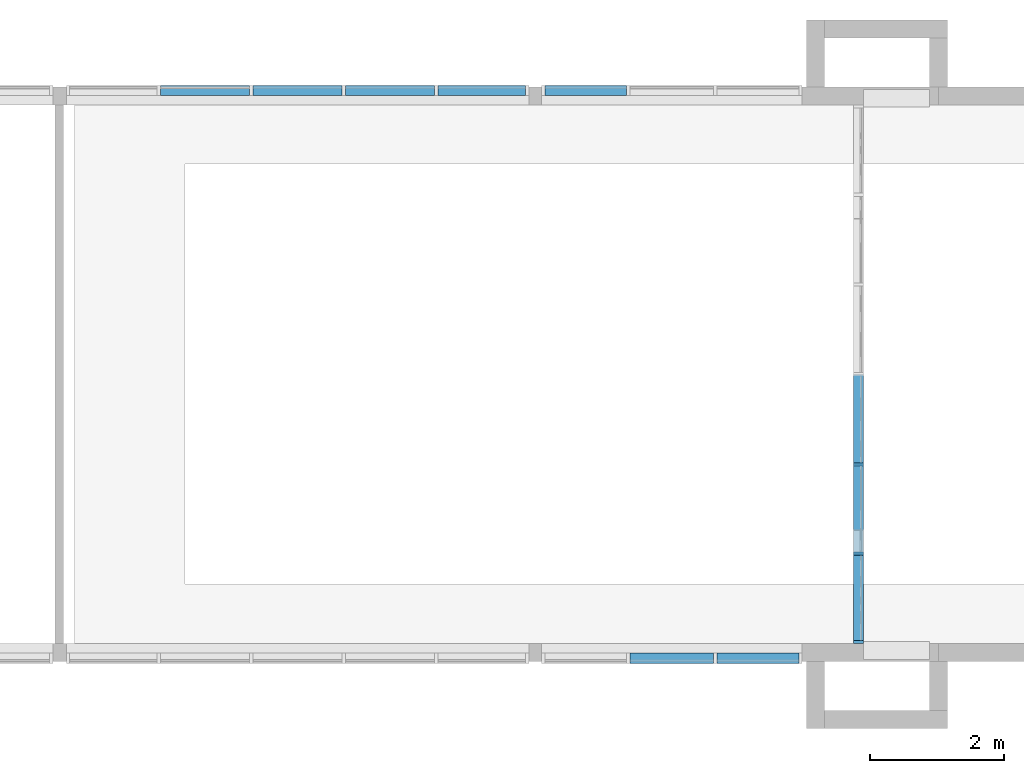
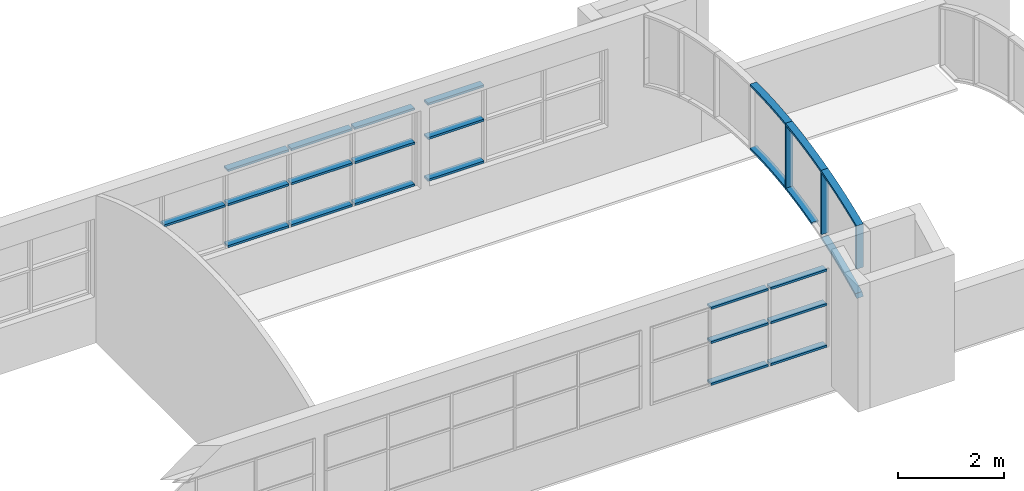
# One storey, part 3 of 14: 28 members, 4 elements without a shape of their own.
"""IFC2X3 building model written with IfcOpenShell, lengths in metres."""

from ifc_helpers import new_model, entity, si_unit, converted_unit, frame, frame_2d, origin, origin_2d_with_axis, place, context, project, spatial, polyline, circle_curve, parameter, trimmed, segment, composite_curve, rectangle, outline, extrude, source, transform, mapped, material, type_object, type_shapes, element, aggregate, save


model = new_model("IFC2X3")

# Units and contexts
model_context = context("Model", 3, precision=1e-09, world=origin())
plan_context = context("Plan", 3, precision=1e-09, world=origin())
ifc_project = project(units=[si_unit("LENGTHUNIT", "METRE"), si_unit("AREAUNIT", "SQUARE_METRE"), si_unit("VOLUMEUNIT", "CUBIC_METRE"), converted_unit("PLANEANGLEUNIT", "DEGREE", entity("IfcRatioMeasure", 0.01745329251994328), si_unit("PLANEANGLEUNIT", "RADIAN"), dimensions=[0, 0, 0, 0, 0, 0, 0]), si_unit("TIMEUNIT", "SECOND")], contexts=[model_context, plan_context])

# Site, building, storey
site_placement = place(None, origin())
site = spatial("IfcSite", under=ifc_project, at=site_placement, Name="Default", CompositionType="ELEMENT")
building_placement = place(site_placement, origin())
building = spatial("IfcBuilding", under=site, at=building_placement, CompositionType="ELEMENT")
storey_placement = place(building_placement, frame((0.0, 0.0, 9.25000000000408)))
storey = spatial("IfcBuildingStorey", under=building, at=storey_placement, Name="Roof - Main", CompositionType="ELEMENT", Elevation=9.25000000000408)

# Curtain wall, members
curtain_wall_1_placement = place(storey_placement, origin())
curtain_wall_1 = element("IfcCurtainWall", 1, at=curtain_wall_1_placement, inside=storey, Name="Curtain Wall:Storefront", ObjectType="Curtain Wall:Storefront")
ifc_material = material(Name="Metal - Aluminium")
member_type_1 = type_object("IfcMemberType", Name="50 x 150mm", PredefinedType="MULLION")
shared_shape_1 = source(origin(), model_context, "Body", "SweptSolid", [
    extrude(outline(composite_curve([segment(polyline([(-0.7161302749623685, -0.02478416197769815), (0.7090670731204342, -0.02478416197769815)]), True, "CONTINUOUS"), segment(trimmed(circle_curve(frame_2d((-9.329784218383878, 1.340798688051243), x_axis=(0.9646981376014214, -0.2633581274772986)), 10.13130553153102), [parameter(7.523028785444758)], [parameter(7.703250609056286)], True, "PARAMETER"), True, "CONTINUOUS"), segment(polyline([(0.7133127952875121, 0.006799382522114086), (0.7145315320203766, 0.01600705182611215)]), True, "CONTINUOUS"), segment(polyline([(0.7145315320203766, 0.01600705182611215), (0.7157418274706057, 0.02521583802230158)]), True, "CONTINUOUS"), segment(polyline([(0.7157418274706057, 0.02521583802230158), (-0.7083481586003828, 0.02521583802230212)]), True, "CONTINUOUS"), segment(trimmed(circle_curve(frame_2d((-9.325467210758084, 1.340798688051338), x_axis=(1.0, 1.890626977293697e-05)), 8.716966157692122), [parameter(351.1008360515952)], [parameter(351.3185492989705)], True, "PARAMETER"), False, "CONTINUOUS"), segment(polyline([(-0.7134093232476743, -0.007518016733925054), (-0.7147654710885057, -0.0161517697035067)]), True, "CONTINUOUS"), segment(polyline([(-0.7147654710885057, -0.0161517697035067), (-0.7161302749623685, -0.02478416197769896)]), True, "CONTINUOUS")], self_intersect=False)), frame((0.0002158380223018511, -0.07499999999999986, -0.7628075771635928), z_axis=(0.0, 1.0, 0.0), x_axis=(0.0, 0.0, -1.0)), (0.0, 0.0, 1.0), 0.15),
])
type_shapes(member_type_1, [shared_shape_1])
member_1_placement = place(storey_placement, frame((-21.61957995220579, 30.35450328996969, 2.610619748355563), z_axis=(0.0, 0.0, -1.0), x_axis=(0.0, -1.0, 0.0)))
member_1 = element("IfcMember", 2, at=member_1_placement, type_object=member_type_1, material=ifc_material, Name="Rectangular Mullion:50 x 150mm:50 x 150mm", ObjectType="50 x 150mm", context=model_context, shape_type="MappedRepresentation", body=[
    mapped(shared_shape_1, transform((0.0, 0.0, 0.0), scale=1.0)),
])
member_type_2 = type_object("IfcMemberType", Name="50 x 150mm", PredefinedType="MULLION")
shared_shape_2 = source(origin(), model_context, "Body", "SweptSolid", [
    extrude(outline(composite_curve([segment(polyline([(-0.0732791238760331, -0.698525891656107), (-0.02327912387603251, -0.6985258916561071)]), True, "CONTINUOUS"), segment(trimmed(circle_curve(frame_2d((10.1080264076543, -0.6985258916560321), x_axis=(-0.9902695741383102, 0.1391623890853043)), 10.13130553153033), [parameter(0.1864063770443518)], [parameter(7.999380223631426)], True, "PARAMETER"), False, "CONTINUOUS"), segment(polyline([(0.07076893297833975, 0.6787228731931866), (0.02578931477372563, 0.7183289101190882)]), True, "CONTINUOUS"), segment(trimmed(circle_curve(frame_2d((10.1080264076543, -0.6985258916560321), x_axis=(-0.9902695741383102, 0.1391623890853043)), 10.18130553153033), [parameter(3.562221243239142e-13)], [parameter(7.999380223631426)], True, "PARAMETER"), True, "CONTINUOUS")], self_intersect=False)), frame((-0.07442599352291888, -0.075, -0.7149281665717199), z_axis=(0.0, 1.0, 0.0), x_axis=(-0.9902695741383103, 0.0, 0.1391623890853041)), (0.0, 0.0, 1.0), 0.15),
])
type_shapes(member_type_2, [shared_shape_2])
member_2_placement = place(storey_placement, frame((-21.6195799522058, 27.67300986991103, 3.396818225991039), z_axis=(0.0, -0.9186616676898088, -0.3950452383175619), x_axis=(0.0, -0.3950452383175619, 0.9186616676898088)))
member_2 = element("IfcMember", 3, at=member_2_placement, type_object=member_type_2, material=ifc_material, Name="Rectangular Mullion:50 x 150mm:50 x 150mm", ObjectType="50 x 150mm", context=model_context, shape_type="MappedRepresentation", body=[
    mapped(shared_shape_2, transform((0.0, 0.0, 0.0), scale=1.0)),
])
member_type_3 = type_object("IfcMemberType", Name="50 x 150mm", PredefinedType="MULLION")
shared_shape_3 = source(origin(), model_context, "Body", "SweptSolid", [
    extrude(outline(composite_curve([segment(polyline([(-0.06922385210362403, -0.6687265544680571), (-0.01922385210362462, -0.6687265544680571)]), True, "CONTINUOUS"), segment(trimmed(circle_curve(frame_2d((10.11208167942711, -0.668726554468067), x_axis=(-0.9912913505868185, 0.1316869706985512)), 10.13130553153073), [parameter(3.562221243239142e-13)], [parameter(7.567086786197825)], True, "PARAMETER"), False, "CONTINUOUS"), segment(polyline([(0.06900613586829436, 0.6654343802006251), (0.01944156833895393, 0.6720187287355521)]), True, "CONTINUOUS"), segment(trimmed(circle_curve(frame_2d((10.11208167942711, -0.668726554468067), x_axis=(-0.9912913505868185, 0.1316869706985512)), 10.18130553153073), [parameter(3.562221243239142e-13)], [parameter(7.567086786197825)], True, "PARAMETER"), True, "CONTINUOUS")], self_intersect=False)), frame((-0.06922385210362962, -0.075, -0.6687265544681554), z_axis=(0.0, 1.0, 0.0), x_axis=(-0.9912913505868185, 0.0, 0.1316869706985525)), (0.0, 0.0, 1.0), 0.1499999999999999),
])
type_shapes(member_type_3, [shared_shape_3])
member_3_placement = place(storey_placement, frame((-21.61957995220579, 30.35450328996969, 4.136304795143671), z_axis=(0.0, -0.9912934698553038, -0.1316710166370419), x_axis=(0.0, -0.1316710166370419, 0.9912934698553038)))
member_3 = element("IfcMember", 4, at=member_3_placement, type_object=member_type_3, material=ifc_material, Name="Rectangular Mullion:50 x 150mm:50 x 150mm", ObjectType="50 x 150mm", context=model_context, shape_type="MappedRepresentation", body=[
    mapped(shared_shape_3, transform((0.0, 0.0, 0.0), scale=1.0)),
])
member_type_4 = type_object("IfcMemberType", Name="50 x 150mm", PredefinedType="MULLION")
shared_shape_4 = source(origin(), model_context, "Body", "SweptSolid", [
    extrude(outline(composite_curve([segment(polyline([(-0.07082729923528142, -0.6806878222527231), (-0.02082729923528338, -0.680687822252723)]), True, "CONTINUOUS"), segment(trimmed(circle_curve(frame_2d((10.11047823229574, -0.6806878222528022), x_axis=(-0.9909755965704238, 0.1340424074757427)), 10.13130553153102), [parameter(3.562221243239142e-13)], [parameter(7.703250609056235)], True, "PARAMETER"), False, "CONTINUOUS"), segment(polyline([(0.07060168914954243, 0.6773367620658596), (0.02105290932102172, 0.6840388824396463)]), True, "CONTINUOUS"), segment(trimmed(circle_curve(frame_2d((10.11047823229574, -0.6806878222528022), x_axis=(-0.9909755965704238, 0.1340424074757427)), 10.18130553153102), [parameter(3.562221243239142e-13)], [parameter(7.703250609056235)], True, "PARAMETER"), True, "CONTINUOUS")], self_intersect=False)), frame((-0.07082729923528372, -0.07499999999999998, -0.6806878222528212), z_axis=(0.0, 1.0, 0.0), x_axis=(-0.9909755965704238, 0.0, 0.134042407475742)), (0.0, 0.0, 1.0), 0.1499999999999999),
])
type_shapes(member_type_4, [shared_shape_4])
member_4_placement = place(storey_placement, frame((-21.61957995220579, 29.01375657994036, 3.865529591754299), z_axis=(0.0, -0.9646981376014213, -0.2633581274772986), x_axis=(0.0, -0.2633581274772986, 0.9646981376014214)))
member_4 = element("IfcMember", 5, at=member_4_placement, type_object=member_type_4, material=ifc_material, Name="Rectangular Mullion:50 x 150mm:50 x 150mm", ObjectType="50 x 150mm", context=model_context, shape_type="MappedRepresentation", body=[
    mapped(shared_shape_4, transform((0.0, 0.0, 0.0), scale=1.0)),
])
member_type_5 = type_object("IfcMemberType", Name="50 x 150mm", PredefinedType="MULLION")
shared_shape_5 = source(origin(), model_context, "Body", "SweptSolid", [
    extrude(outline(composite_curve([segment(polyline([(0.02731640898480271, -0.672306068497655), (0.07731640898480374, -0.6723060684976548)]), True, "CONTINUOUS"), segment(trimmed(circle_curve(frame_2d((-8.639649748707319, -0.6723060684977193), x_axis=(0.9879621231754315, 0.1546959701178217)), 8.716966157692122), [parameter(351.1008360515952)], [parameter(359.9999999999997)], True, "PARAMETER"), True, "CONTINUOUS"), segment(polyline([(-0.02761735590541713, 0.6761734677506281), (-0.07701546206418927, 0.6684386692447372)]), True, "CONTINUOUS"), segment(trimmed(circle_curve(frame_2d((-8.639649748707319, -0.6723060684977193), x_axis=(0.9879621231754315, 0.1546959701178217)), 8.666966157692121), [parameter(351.1008360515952)], [parameter(359.9999999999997)], True, "PARAMETER"), False, "CONTINUOUS")], self_intersect=False)), frame((0.02731640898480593, -0.07499999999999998, -0.6723060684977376), z_axis=(0.0, 1.0, 0.0), x_axis=(-0.9879621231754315, 0.0, -0.15469597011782)), (0.0, 0.0, 1.0), 0.15),
])
type_shapes(member_type_5, [shared_shape_5])
member_5_placement = place(storey_placement, frame((-21.61957995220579, 31.69524999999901, 2.714926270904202), z_axis=(0.0, 1.0, -1.890626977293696e-05), x_axis=(0.0, -1.890626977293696e-05, -1.0)))
member_5 = element("IfcMember", 6, at=member_5_placement, type_object=member_type_5, material=ifc_material, Name="Rectangular Mullion:50 x 150mm:50 x 150mm", ObjectType="50 x 150mm", context=model_context, shape_type="MappedRepresentation", body=[
    mapped(shared_shape_5, transform((0.0, 0.0, 0.0), scale=1.0)),
])
member_type_6 = type_object("IfcMemberType", Name="50 x 150mm", PredefinedType="MULLION")
shared_shape_6 = source(origin(), model_context, "Body", "SweptSolid", [
    extrude(outline(composite_curve([segment(polyline([(0.003756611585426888, -0.4991237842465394), (0.05375661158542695, -0.4991237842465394)]), True, "CONTINUOUS"), segment(trimmed(circle_curve(frame_2d((-8.663209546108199, -0.4991237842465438), x_axis=(0.9933831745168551, 0.1148471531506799)), 8.716966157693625), [parameter(353.4051908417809)], [parameter(359.9999999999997)], True, "PARAMETER"), True, "CONTINUOUS"), segment(polyline([(-0.003922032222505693, 0.5019949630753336), (-0.05359119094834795, 0.4962526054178)]), True, "CONTINUOUS"), segment(trimmed(circle_curve(frame_2d((-8.663209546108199, -0.4991237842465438), x_axis=(0.9933831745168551, 0.1148471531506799)), 8.666966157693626), [parameter(353.4051908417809)], [parameter(359.9999999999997)], True, "PARAMETER"), False, "CONTINUOUS")], self_intersect=False)), frame((0.003756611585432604, -0.07500000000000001, -0.4991237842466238), z_axis=(0.0, 1.0, 0.0), x_axis=(-0.9933831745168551, 0.0, -0.1148471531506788)), (0.0, 0.0, 1.0), 0.15),
])
type_shapes(member_type_6, [shared_shape_6])
member_6_placement = place(storey_placement, frame((-21.61957995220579, 30.35450328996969, 2.610619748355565), z_axis=(0.0, 0.9879650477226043, 0.1546772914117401), x_axis=(0.0, 0.1546772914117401, -0.9879650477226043)))
member_6 = element("IfcMember", 7, at=member_6_placement, type_object=member_type_6, material=ifc_material, Name="Rectangular Mullion:50 x 150mm:50 x 150mm", ObjectType="50 x 150mm", context=model_context, shape_type="MappedRepresentation", body=[
    mapped(shared_shape_6, transform((0.0, 0.0, 0.0), scale=1.0)),
])
member_type_7 = type_object("IfcMemberType", Name="50 x 150mm", PredefinedType="MULLION")
shared_shape_7 = source(origin(), model_context, "Body", "SweptSolid", [
    extrude(outline(composite_curve([segment(polyline([(-0.6206763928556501, -0.4179739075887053), (-0.524831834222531, -0.4179739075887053)]), True, "CONTINUOUS"), segment(trimmed(circle_curve(frame_2d((-5.107161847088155, 6.997398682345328), x_axis=(0.6534673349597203, -0.7569547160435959)), 8.716966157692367), [parameter(350.9104579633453)], [parameter(359.9999999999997)], True, "PARAMETER"), True, "CONTINUOUS"), segment(polyline([(0.589090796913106, 0.3990500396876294), (0.5564174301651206, 0.436897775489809)]), True, "CONTINUOUS"), segment(trimmed(circle_curve(frame_2d((-5.107161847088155, 6.997398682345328), x_axis=(0.6534673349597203, -0.7569547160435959)), 8.666966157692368), [parameter(350.3714477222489)], [parameter(359.9999999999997)], True, "PARAMETER"), False, "CONTINUOUS")], self_intersect=False)), frame((0.0328887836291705, -0.07499999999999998, -0.7066812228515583), z_axis=(0.0, 1.0, 0.0), x_axis=(-0.6534673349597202, 0.0, 0.7569547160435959)), (0.0, 0.0, 1.0), 0.15),
])
type_shapes(member_type_7, [shared_shape_7])
member_7_placement = place(storey_placement, frame((-21.61957995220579, 29.01375657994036, 2.28973020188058), z_axis=(0.0, 0.9509406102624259, 0.3093734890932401), x_axis=(0.0, 0.3093734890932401, -0.9509406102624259)))
member_7 = element("IfcMember", 8, at=member_7_placement, type_object=member_type_7, material=ifc_material, Name="Rectangular Mullion:50 x 150mm:50 x 150mm", ObjectType="50 x 150mm", context=model_context, shape_type="MappedRepresentation", body=[
    mapped(shared_shape_7, transform((0.0, 0.0, 0.0), scale=1.0)),
])
member_type_8 = type_object("IfcMemberType", Name="50 x 150mm", PredefinedType="MULLION")
shared_shape_8 = source(origin(), model_context, "Body", "SweptSolid", [
    extrude(outline(polyline([(-0.4901776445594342, -0.025), (0.5066405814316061, -0.025), (0.4737147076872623, 0.025), (-0.4901776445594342, 0.025), (-0.4901776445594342, -0.025)])), frame((-0.025, -0.07499999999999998, -0.4901776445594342), z_axis=(0.0, 1.0, 0.0), x_axis=(0.0, 0.0, -1.0)), (0.0, 0.0, 1.0), 0.15),
])
type_shapes(member_type_8, [shared_shape_8])
member_8_placement = place(storey_placement, frame((-21.6195799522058, 27.67300986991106, 2.4), z_axis=(0.0, 0.0, -1.0), x_axis=(0.0, -1.0, 0.0)))
member_8 = element("IfcMember", 9, at=member_8_placement, type_object=member_type_8, material=ifc_material, Name="Rectangular Mullion:50 x 150mm:50 x 150mm", ObjectType="50 x 150mm", context=model_context, shape_type="MappedRepresentation", body=[
    mapped(shared_shape_8, transform((0.0, 0.0, 0.0), scale=1.0)),
])
member_type_9 = type_object("IfcMemberType", Name="50 x 150mm", PredefinedType="MULLION")
shared_shape_9 = source(origin(), model_context, "Body", "SweptSolid", [
    extrude(outline(composite_curve([segment(polyline([(-0.9439190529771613, -0.03037522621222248), (0.4628758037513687, -0.03037522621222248)]), True, "CONTINUOUS"), segment(trimmed(circle_curve(frame_2d((-9.300275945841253, 2.675954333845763), x_axis=(0.9186616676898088, -0.3950452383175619)), 10.13130553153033), [parameter(7.775509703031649)], [parameter(7.999380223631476)], True, "PARAMETER"), True, "CONTINUOUS"), segment(polyline([(0.4733756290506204, 0.007792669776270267), (0.474988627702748, 0.01370823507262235)]), True, "CONTINUOUS"), segment(polyline([(0.474988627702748, 0.01370823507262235), (0.4765980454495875, 0.01962477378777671)]), True, "CONTINUOUS"), segment(polyline([(0.4765980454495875, 0.01962477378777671), (-0.9439190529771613, 0.01962477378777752)]), True, "CONTINUOUS"), segment(polyline([(-0.9439190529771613, 0.01962477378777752), (-0.9439190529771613, -0.03037522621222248)]), True, "CONTINUOUS")], self_intersect=False)), frame((-0.005375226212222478, -0.07499999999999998, -0.9439190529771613), z_axis=(0.0, 1.0, 0.0), x_axis=(0.0, 0.0, -1.0)), (0.0, 0.0, 1.0), 0.15),
])
type_shapes(member_type_9, [shared_shape_9])
member_9_placement = place(storey_placement, frame((-21.61957995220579, 29.01375657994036, 2.4), z_axis=(0.0, 0.0, -1.0), x_axis=(0.0, -1.0, 0.0)))
member_9 = element("IfcMember", 10, at=member_9_placement, type_object=member_type_9, material=ifc_material, Name="Rectangular Mullion:50 x 150mm:50 x 150mm", ObjectType="50 x 150mm", context=model_context, shape_type="MappedRepresentation", body=[
    mapped(shared_shape_9, transform((0.0, 0.0, 0.0), scale=1.0)),
])
aggregate(curtain_wall_1, [member_1, member_2, member_3, member_4, member_5, member_6, member_7, member_8, member_9])

curtain_wall_2_placement = place(storey_placement, origin())
curtain_wall_2 = element("IfcCurtainWall", 11, at=curtain_wall_2_placement, inside=storey, Name="Curtain Wall:Storefront", ObjectType="Curtain Wall:Storefront")
member_type_10 = type_object("IfcMemberType", Name="50 x 150mm", PredefinedType="MULLION")
shared_shape_10 = source(origin(), model_context, "Body", "SweptSolid", [
    extrude(rectangle(XDim=0.05, YDim=0.15, at=origin_2d_with_axis()), frame((-0.025, 0.0, -1.221666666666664), z_axis=(0.0, 0.0, 1.0), x_axis=(-1.0, 0.0, 0.0)), (0.0, 0.0, 1.0), 1.221666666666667),
])
type_shapes(member_type_10, [shared_shape_10])
member_10_placement = place(storey_placement, frame((-25.07833333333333, 35.93490399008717, 2.867), z_axis=(1.0, 0.0, 0.0), x_axis=(0.0, 0.0, 1.0)))
member_10 = element("IfcMember", 12, at=member_10_placement, type_object=member_type_10, material=ifc_material, Name="Rectangular Mullion:50 x 150mm:50 x 150mm", ObjectType="50 x 150mm", context=model_context, shape_type="MappedRepresentation", body=[
    mapped(shared_shape_10, transform((0.0, 0.0, 0.0), scale=1.0)),
])
member_type_11 = type_object("IfcMemberType", Name="50 x 150mm", PredefinedType="MULLION")
shared_shape_11 = source(origin(), model_context, "Body", "SweptSolid", [
    extrude(rectangle(XDim=0.05, YDim=0.15, at=origin_2d_with_axis()), frame((-0.025, 0.0, -1.221666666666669), z_axis=(0.0, 0.0, 1.0), x_axis=(-1.0, 0.0, 0.0)), (0.0, 0.0, 1.0), 1.221666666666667),
])
type_shapes(member_type_11, [shared_shape_11])
member_11_placement = place(storey_placement, frame((-26.29999999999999, 35.93490399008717, 1.067), z_axis=(-1.0, 0.0, 0.0), x_axis=(0.0, 0.0, -1.0)))
member_11 = element("IfcMember", 13, at=member_11_placement, type_object=member_type_11, material=ifc_material, Name="Rectangular Mullion:50 x 150mm:50 x 150mm", ObjectType="50 x 150mm", context=model_context, shape_type="MappedRepresentation", body=[
    mapped(shared_shape_11, transform((0.0, 0.0, 0.0), scale=1.0)),
])
member_type_12 = type_object("IfcMemberType", Name="50 x 150mm", PredefinedType="MULLION")
shared_shape_12 = source(origin(), model_context, "Body", "SweptSolid", [
    extrude(rectangle(XDim=0.05, YDim=0.15, at=origin_2d_with_axis()), frame((0.0, 0.0, -1.221666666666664), z_axis=(0.0, 0.0, 1.0), x_axis=(-1.0, 0.0, 0.0)), (0.0, 0.0, 1.0), 1.221666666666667),
])
type_shapes(member_type_12, [shared_shape_12])
member_12_placement = place(storey_placement, frame((-25.07833333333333, 35.93490399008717, 2.053894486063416), z_axis=(1.0, 0.0, 0.0), x_axis=(0.0, 0.0, 1.0)))
member_12 = element("IfcMember", 14, at=member_12_placement, type_object=member_type_12, material=ifc_material, Name="Rectangular Mullion:50 x 150mm:50 x 150mm", ObjectType="50 x 150mm", context=model_context, shape_type="MappedRepresentation", body=[
    mapped(shared_shape_12, transform((0.0, 0.0, 0.0), scale=1.0)),
])
aggregate(curtain_wall_2, [member_10, member_11, member_12])

curtain_wall_3_placement = place(storey_placement, origin())
curtain_wall_3 = element("IfcCurtainWall", 15, at=curtain_wall_3_placement, inside=storey, Name="Curtain Wall:Storefront", ObjectType="Curtain Wall:Storefront")
member_type_13 = type_object("IfcMemberType", Name="50 x 150mm", PredefinedType="MULLION")
shared_shape_13 = source(origin(), model_context, "Body", "SweptSolid", [
    extrude(rectangle(XDim=0.05, YDim=0.15, at=origin_2d_with_axis()), frame((-0.025, 0.0, -1.306000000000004), z_axis=(0.0, 0.0, 1.0), x_axis=(-1.0, 0.0, 0.0)), (0.0, 0.0, 1.0), 1.306000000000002),
])
type_shapes(member_type_13, [shared_shape_13])
member_13_placement = place(storey_placement, frame((-26.58900000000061, 35.93490399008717, 2.867), z_axis=(1.0, 0.0, 0.0), x_axis=(0.0, 0.0, 1.0)))
member_13 = element("IfcMember", 16, at=member_13_placement, type_object=member_type_13, material=ifc_material, Name="Rectangular Mullion:50 x 150mm:50 x 150mm", ObjectType="50 x 150mm", context=model_context, shape_type="MappedRepresentation", body=[
    mapped(shared_shape_13, transform((0.0, 0.0, 0.0), scale=1.0)),
])
member_type_14 = type_object("IfcMemberType", Name="50 x 150mm", PredefinedType="MULLION")
shared_shape_14 = source(origin(), model_context, "Body", "SweptSolid", [
    extrude(rectangle(XDim=0.05, YDim=0.15, at=origin_2d_with_axis()), frame((-0.025, 0.0, -1.330999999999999), z_axis=(0.0, 0.0, 1.0), x_axis=(-1.0, 0.0, 0.0)), (0.0, 0.0, 1.0), 1.330999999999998),
])
type_shapes(member_type_14, [shared_shape_14])
member_14_placement = place(storey_placement, frame((-29.32600000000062, 35.93490399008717, 2.867), z_axis=(1.0, 0.0, 0.0), x_axis=(0.0, 0.0, 1.0)))
member_14 = element("IfcMember", 17, at=member_14_placement, type_object=member_type_14, material=ifc_material, Name="Rectangular Mullion:50 x 150mm:50 x 150mm", ObjectType="50 x 150mm", context=model_context, shape_type="MappedRepresentation", body=[
    mapped(shared_shape_14, transform((0.0, 0.0, 0.0), scale=1.0)),
])
member_15_placement = place(storey_placement, frame((-27.94500000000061, 35.93490399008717, 2.867), z_axis=(1.0, 0.0, 0.0), x_axis=(0.0, 0.0, 1.0)))
member_15 = element("IfcMember", 18, at=member_15_placement, type_object=member_type_14, material=ifc_material, Name="Rectangular Mullion:50 x 150mm:50 x 150mm", ObjectType="50 x 150mm", context=model_context, shape_type="MappedRepresentation", body=[
    mapped(shared_shape_14, transform((0.0, 0.0, 0.0), scale=1.0)),
])
member_type_15 = type_object("IfcMemberType", Name="50 x 150mm", PredefinedType="MULLION")
shared_shape_15 = source(origin(), model_context, "Body", "SweptSolid", [
    extrude(rectangle(XDim=0.05, YDim=0.15, at=origin_2d_with_axis()), frame((-0.025, 0.0, -1.330999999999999), z_axis=(0.0, 0.0, 1.0), x_axis=(-1.0, 0.0, 0.0)), (0.0, 0.0, 1.0), 1.330999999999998),
])
type_shapes(member_type_15, [shared_shape_15])
member_16_placement = place(storey_placement, frame((-30.65700000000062, 35.93490399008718, 1.067), z_axis=(-1.0, 0.0, 0.0), x_axis=(0.0, 0.0, -1.0)))
member_16 = element("IfcMember", 19, at=member_16_placement, type_object=member_type_15, material=ifc_material, Name="Rectangular Mullion:50 x 150mm:50 x 150mm", ObjectType="50 x 150mm", context=model_context, shape_type="MappedRepresentation", body=[
    mapped(shared_shape_15, transform((0.0, 0.0, 0.0), scale=1.0)),
])
member_17_placement = place(storey_placement, frame((-29.27600000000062, 35.93490399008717, 1.067), z_axis=(-1.0, 0.0, 0.0), x_axis=(0.0, 0.0, -1.0)))
member_17 = element("IfcMember", 20, at=member_17_placement, type_object=member_type_15, material=ifc_material, Name="Rectangular Mullion:50 x 150mm:50 x 150mm", ObjectType="50 x 150mm", context=model_context, shape_type="MappedRepresentation", body=[
    mapped(shared_shape_15, transform((0.0, 0.0, 0.0), scale=1.0)),
])
member_type_16 = type_object("IfcMemberType", Name="50 x 150mm", PredefinedType="MULLION")
shared_shape_16 = source(origin(), model_context, "Body", "SweptSolid", [
    extrude(rectangle(XDim=0.05, YDim=0.15, at=origin_2d_with_axis()), frame((-0.025, 0.0, -1.305999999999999), z_axis=(0.0, 0.0, 1.0), x_axis=(-1.0, 0.0, 0.0)), (0.0, 0.0, 1.0), 1.305999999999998),
])
type_shapes(member_type_16, [shared_shape_16])
member_18_placement = place(storey_placement, frame((-27.89500000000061, 35.93490399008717, 1.067), z_axis=(-1.0, 0.0, 0.0), x_axis=(0.0, 0.0, -1.0)))
member_18 = element("IfcMember", 21, at=member_18_placement, type_object=member_type_16, material=ifc_material, Name="Rectangular Mullion:50 x 150mm:50 x 150mm", ObjectType="50 x 150mm", context=model_context, shape_type="MappedRepresentation", body=[
    mapped(shared_shape_16, transform((0.0, 0.0, 0.0), scale=1.0)),
])
member_type_17 = type_object("IfcMemberType", Name="50 x 150mm", PredefinedType="MULLION")
shared_shape_17 = source(origin(), model_context, "Body", "SweptSolid", [
    extrude(rectangle(XDim=0.05, YDim=0.15, at=origin_2d_with_axis()), frame((0.0, 0.0, -1.330999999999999), z_axis=(0.0, 0.0, 1.0), x_axis=(-1.0, 0.0, 0.0)), (0.0, 0.0, 1.0), 1.330999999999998),
])
type_shapes(member_type_17, [shared_shape_17])
member_19_placement = place(storey_placement, frame((-30.70700000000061, 35.93490399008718, 2.053894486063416), z_axis=(1.0, 0.0, 0.0), x_axis=(0.0, 0.0, 1.0)))
member_19 = element("IfcMember", 22, at=member_19_placement, type_object=member_type_17, material=ifc_material, Name="Rectangular Mullion:50 x 150mm:50 x 150mm", ObjectType="50 x 150mm", context=model_context, shape_type="MappedRepresentation", body=[
    mapped(shared_shape_17, transform((0.0, 0.0, 0.0), scale=1.0)),
])
member_20_placement = place(storey_placement, frame((-29.32600000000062, 35.93490399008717, 2.053894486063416), z_axis=(1.0, 0.0, 0.0), x_axis=(0.0, 0.0, 1.0)))
member_20 = element("IfcMember", 23, at=member_20_placement, type_object=member_type_17, material=ifc_material, Name="Rectangular Mullion:50 x 150mm:50 x 150mm", ObjectType="50 x 150mm", context=model_context, shape_type="MappedRepresentation", body=[
    mapped(shared_shape_17, transform((0.0, 0.0, 0.0), scale=1.0)),
])
member_21_placement = place(storey_placement, frame((-27.94500000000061, 35.93490399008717, 2.053894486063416), z_axis=(1.0, 0.0, 0.0), x_axis=(0.0, 0.0, 1.0)))
member_21 = element("IfcMember", 24, at=member_21_placement, type_object=member_type_17, material=ifc_material, Name="Rectangular Mullion:50 x 150mm:50 x 150mm", ObjectType="50 x 150mm", context=model_context, shape_type="MappedRepresentation", body=[
    mapped(shared_shape_17, transform((0.0, 0.0, 0.0), scale=1.0)),
])
member_type_18 = type_object("IfcMemberType", Name="50 x 150mm", PredefinedType="MULLION")
shared_shape_18 = source(origin(), model_context, "Body", "SweptSolid", [
    extrude(rectangle(XDim=0.05, YDim=0.15, at=origin_2d_with_axis()), frame((0.0, 0.0, -1.305999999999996), z_axis=(0.0, 0.0, 1.0), x_axis=(-1.0, 0.0, 0.0)), (0.0, 0.0, 1.0), 1.305999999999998),
])
type_shapes(member_type_18, [shared_shape_18])
member_22_placement = place(storey_placement, frame((-26.58900000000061, 35.93490399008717, 2.053894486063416), z_axis=(1.0, 0.0, 0.0), x_axis=(0.0, 0.0, 1.0)))
member_22 = element("IfcMember", 25, at=member_22_placement, type_object=member_type_18, material=ifc_material, Name="Rectangular Mullion:50 x 150mm:50 x 150mm", ObjectType="50 x 150mm", context=model_context, shape_type="MappedRepresentation", body=[
    mapped(shared_shape_18, transform((0.0, 0.0, 0.0), scale=1.0)),
])
aggregate(curtain_wall_3, [member_14, member_15, member_16, member_17, member_18, member_19, member_20, member_21, member_22, member_13])

curtain_wall_4_placement = place(storey_placement, origin())
curtain_wall_4 = element("IfcCurtainWall", 26, at=curtain_wall_4_placement, inside=storey, Name="Curtain Wall:Storefront", ObjectType="Curtain Wall:Storefront")
member_type_19 = type_object("IfcMemberType", Name="50 x 150mm", PredefinedType="MULLION")
shared_shape_19 = source(origin(), model_context, "Body", "SweptSolid", [
    extrude(rectangle(XDim=0.05, YDim=0.15, at=origin_2d_with_axis()), frame((-0.025, 0.0, -1.221666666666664), z_axis=(0.0, 0.0, 1.0), x_axis=(-1.0, 0.0, 0.0)), (0.0, 0.0, 1.0), 1.221666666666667),
])
type_shapes(member_type_19, [shared_shape_19])
member_23_placement = place(storey_placement, frame((-22.51, 27.45559600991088, 2.867), z_axis=(1.0, 0.0, 0.0), x_axis=(0.0, 0.0, 1.0)))
member_23 = element("IfcMember", 27, at=member_23_placement, type_object=member_type_19, material=ifc_material, Name="Rectangular Mullion:50 x 150mm:50 x 150mm", ObjectType="50 x 150mm", context=model_context, shape_type="MappedRepresentation", body=[
    mapped(shared_shape_19, transform((0.0, 0.0, 0.0), scale=1.0)),
])
member_type_20 = type_object("IfcMemberType", Name="50 x 150mm", PredefinedType="MULLION")
shared_shape_20 = source(origin(), model_context, "Body", "SweptSolid", [
    extrude(rectangle(XDim=0.05, YDim=0.15, at=origin_2d_with_axis()), frame((-0.025, 0.0, -1.246666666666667), z_axis=(0.0, 0.0, 1.0), x_axis=(-1.0, 0.0, 0.0)), (0.0, 0.0, 1.0), 1.246666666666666),
])
type_shapes(member_type_20, [shared_shape_20])
member_24_placement = place(storey_placement, frame((-23.78166666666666, 27.45559600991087, 2.867), z_axis=(1.0, 0.0, 0.0), x_axis=(0.0, 0.0, 1.0)))
member_24 = element("IfcMember", 28, at=member_24_placement, type_object=member_type_20, material=ifc_material, Name="Rectangular Mullion:50 x 150mm:50 x 150mm", ObjectType="50 x 150mm", context=model_context, shape_type="MappedRepresentation", body=[
    mapped(shared_shape_20, transform((0.0, 0.0, 0.0), scale=1.0)),
])
member_type_21 = type_object("IfcMemberType", Name="50 x 150mm", PredefinedType="MULLION")
shared_shape_21 = source(origin(), model_context, "Body", "SweptSolid", [
    extrude(rectangle(XDim=0.05, YDim=0.15, at=origin_2d_with_axis()), frame((-0.025, 0.0, -1.246666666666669), z_axis=(0.0, 0.0, 1.0), x_axis=(-1.0, 0.0, 0.0)), (0.0, 0.0, 1.0), 1.246666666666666),
])
type_shapes(member_type_21, [shared_shape_21])
member_25_placement = place(storey_placement, frame((-25.02833333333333, 27.45559600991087, 1.067), z_axis=(-1.0, 0.0, 0.0), x_axis=(0.0, 0.0, -1.0)))
member_25 = element("IfcMember", 29, at=member_25_placement, type_object=member_type_21, material=ifc_material, Name="Rectangular Mullion:50 x 150mm:50 x 150mm", ObjectType="50 x 150mm", context=model_context, shape_type="MappedRepresentation", body=[
    mapped(shared_shape_21, transform((0.0, 0.0, 0.0), scale=1.0)),
])
member_type_22 = type_object("IfcMemberType", Name="50 x 150mm", PredefinedType="MULLION")
shared_shape_22 = source(origin(), model_context, "Body", "SweptSolid", [
    extrude(rectangle(XDim=0.05, YDim=0.15, at=origin_2d_with_axis()), frame((-0.025, 0.0, -1.221666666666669), z_axis=(0.0, 0.0, 1.0), x_axis=(-1.0, 0.0, 0.0)), (0.0, 0.0, 1.0), 1.221666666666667),
])
type_shapes(member_type_22, [shared_shape_22])
member_26_placement = place(storey_placement, frame((-23.73166666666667, 27.45559600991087, 1.067), z_axis=(-1.0, 0.0, 0.0), x_axis=(0.0, 0.0, -1.0)))
member_26 = element("IfcMember", 30, at=member_26_placement, type_object=member_type_22, material=ifc_material, Name="Rectangular Mullion:50 x 150mm:50 x 150mm", ObjectType="50 x 150mm", context=model_context, shape_type="MappedRepresentation", body=[
    mapped(shared_shape_22, transform((0.0, 0.0, 0.0), scale=1.0)),
])
member_type_23 = type_object("IfcMemberType", Name="50 x 150mm", PredefinedType="MULLION")
shared_shape_23 = source(origin(), model_context, "Body", "SweptSolid", [
    extrude(rectangle(XDim=0.05, YDim=0.15, at=origin_2d_with_axis()), frame((0.0, 0.0, -1.246666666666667), z_axis=(0.0, 0.0, 1.0), x_axis=(-1.0, 0.0, 0.0)), (0.0, 0.0, 1.0), 1.246666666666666),
])
type_shapes(member_type_23, [shared_shape_23])
member_27_placement = place(storey_placement, frame((-23.78166666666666, 27.45559600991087, 2.053894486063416), z_axis=(1.0, 0.0, 0.0), x_axis=(0.0, 0.0, 1.0)))
member_27 = element("IfcMember", 31, at=member_27_placement, type_object=member_type_23, material=ifc_material, Name="Rectangular Mullion:50 x 150mm:50 x 150mm", ObjectType="50 x 150mm", context=model_context, shape_type="MappedRepresentation", body=[
    mapped(shared_shape_23, transform((0.0, 0.0, 0.0), scale=1.0)),
])
member_type_24 = type_object("IfcMemberType", Name="50 x 150mm", PredefinedType="MULLION")
shared_shape_24 = source(origin(), model_context, "Body", "SweptSolid", [
    extrude(rectangle(XDim=0.05, YDim=0.15, at=origin_2d_with_axis()), frame((0.0, 0.0, -1.221666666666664), z_axis=(0.0, 0.0, 1.0), x_axis=(-1.0, 0.0, 0.0)), (0.0, 0.0, 1.0), 1.221666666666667),
])
type_shapes(member_type_24, [shared_shape_24])
member_28_placement = place(storey_placement, frame((-22.51, 27.45559600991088, 2.053894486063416), z_axis=(1.0, 0.0, 0.0), x_axis=(0.0, 0.0, 1.0)))
member_28 = element("IfcMember", 32, at=member_28_placement, type_object=member_type_24, material=ifc_material, Name="Rectangular Mullion:50 x 150mm:50 x 150mm", ObjectType="50 x 150mm", context=model_context, shape_type="MappedRepresentation", body=[
    mapped(shared_shape_24, transform((0.0, 0.0, 0.0), scale=1.0)),
])
aggregate(curtain_wall_4, [member_23, member_24, member_25, member_26, member_27, member_28])

save(model, "model.ifc")
